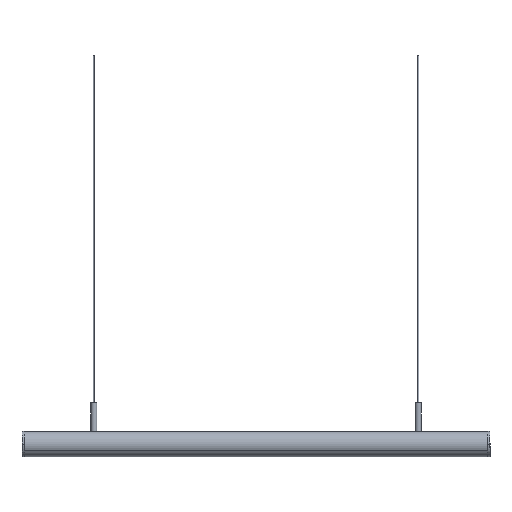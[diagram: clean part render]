
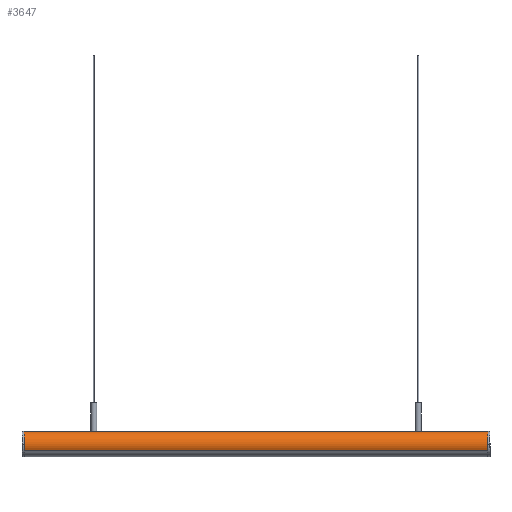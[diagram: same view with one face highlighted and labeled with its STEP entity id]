
A CAD part, front view. The second image highlights one B-rep face of the part: STEP entity #3647.
In plain terms, the highlighted cylindrical face has radius 11 mm (diameter 22 mm), a partial arc.
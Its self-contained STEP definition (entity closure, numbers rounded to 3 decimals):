
#308 = CARTESIAN_POINT ( 'NONE',  ( -169.344, 158.427, 9.478 ) ) ;
#309 = AXIS2_PLACEMENT_3D ( 'NONE', #3157, #932, #2704 ) ;
#332 = AXIS2_PLACEMENT_3D ( 'NONE', #3770, #5543, #5122 ) ;
#443 = CARTESIAN_POINT ( 'NONE',  ( -169.344, 156.636, 20.331 ) ) ;
#467 = CARTESIAN_POINT ( 'NONE',  ( -169.344, 156.636, 20.331 ) ) ;
#699 = FACE_OUTER_BOUND ( 'NONE', #1434, .T. ) ;
#781 = EDGE_CURVE ( 'NONE', #4373, #5352, #2833, .T. ) ;
#928 = CARTESIAN_POINT ( 'NONE',  ( -169.344, 148.663, 4.412 ) ) ;
#932 = DIRECTION ( 'NONE',  ( -1., 0., 0. ) ) ;
#1311 = ORIENTED_EDGE ( 'NONE', *, *, #781, .T. ) ;
#1402 = EDGE_CURVE ( 'NONE', #1886, #4373, #4415, .T. ) ;
#1434 = EDGE_LOOP ( 'NONE', ( #1311, #5041, #2591, #3513 ) ) ;
#1614 = VECTOR ( 'NONE', #1790, 1000. ) ;
#1697 = CARTESIAN_POINT ( 'NONE',  ( -169.344, 148.663, 4.412 ) ) ;
#1790 = DIRECTION ( 'NONE',  ( 1., 0., 0. ) ) ;
#1886 = VERTEX_POINT ( 'NONE', #928 ) ;
#2430 = DIRECTION ( 'NONE',  ( 0., -0.888, -0.461 ) ) ;
#2591 = ORIENTED_EDGE ( 'NONE', *, *, #3685, .F. ) ;
#2669 = LINE ( 'NONE', #467, #1614 ) ;
#2704 = DIRECTION ( 'NONE',  ( 0., -0.888, -0.461 ) ) ;
#2833 = CIRCLE ( 'NONE', #309, 11. ) ;
#3023 = CARTESIAN_POINT ( 'NONE',  ( 230.656, 148.663, 4.412 ) ) ;
#3141 = EDGE_CURVE ( 'NONE', #3438, #5352, #2669, .T. ) ;
#3157 = CARTESIAN_POINT ( 'NONE',  ( 230.656, 158.427, 9.478 ) ) ;
#3321 = CIRCLE ( 'NONE', #4986, 11. ) ;
#3342 = CARTESIAN_POINT ( 'NONE',  ( 230.656, 156.636, 20.331 ) ) ;
#3381 = CYLINDRICAL_SURFACE ( 'NONE', #332, 11. ) ;
#3438 = VERTEX_POINT ( 'NONE', #443 ) ;
#3513 = ORIENTED_EDGE ( 'NONE', *, *, #1402, .T. ) ;
#3647 = ADVANCED_FACE ( 'NONE', ( #699 ), #3381, .T. ) ;
#3685 = EDGE_CURVE ( 'NONE', #1886, #3438, #3321, .T. ) ;
#3770 = CARTESIAN_POINT ( 'NONE',  ( -169.344, 158.427, 9.478 ) ) ;
#4373 = VERTEX_POINT ( 'NONE', #3023 ) ;
#4415 = LINE ( 'NONE', #1697, #5136 ) ;
#4726 = DIRECTION ( 'NONE',  ( 1., 0., 0. ) ) ;
#4986 = AXIS2_PLACEMENT_3D ( 'NONE', #308, #5623, #2430 ) ;
#5041 = ORIENTED_EDGE ( 'NONE', *, *, #3141, .F. ) ;
#5122 = DIRECTION ( 'NONE',  ( 0., -0.888, -0.461 ) ) ;
#5136 = VECTOR ( 'NONE', #4726, 1000. ) ;
#5352 = VERTEX_POINT ( 'NONE', #3342 ) ;
#5543 = DIRECTION ( 'NONE',  ( -1., 0., 0. ) ) ;
#5623 = DIRECTION ( 'NONE',  ( -1., 0., 0. ) ) ;
